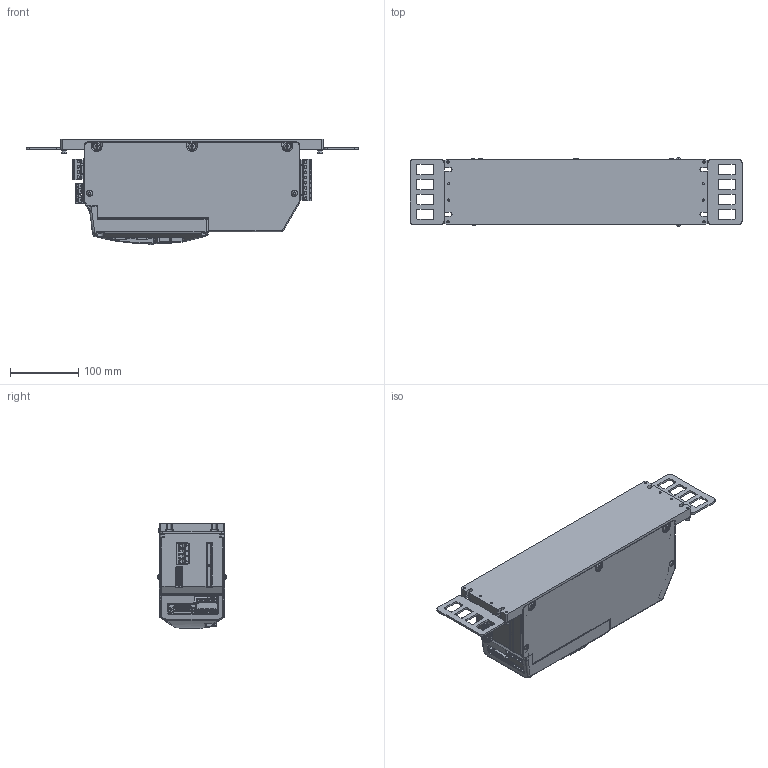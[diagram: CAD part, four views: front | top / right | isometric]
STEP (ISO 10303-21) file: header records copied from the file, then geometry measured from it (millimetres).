
FILE_DESCRIPTION((''),'2;1');
FILE_NAME('AXN15_COLD_PLATE','2015-11-10T',('hegenwang'),(''),'PRO/ENGINEER BY PARAMETRIC TECHNOLOGY CORPORATION, 2010430','PRO/ENGINEER BY PARAMETRIC TECHNOLOGY CORPORATION, 2010430','');
FILE_SCHEMA(('AUTOMOTIVE_DESIGN_CC2 { 1 2 10303 214 -1 1 5 2 }'));
Products named in the file (1): AXN15_COLD_PLATE
Bounding box: 488 x 100.4 x 155.03 mm (x, y, z)
Surface area: 486478.6 mm2 (no closed solid volume)
Topology: 0 solids, 594 shells, 4323 faces, 19234 edges, 15188 vertices
Faces by surface type: plane 2984, cylinder 915, sphere 131, cone 122, torus 119, bspline 52
Entity records: 223528 total; most frequent: CARTESIAN_POINT 54842, DIRECTION 27460, ORIENTED_EDGE 26768, EDGE_CURVE 19043, VERTEX_POINT 15165, VECTOR 13544, LINE 13544, AXIS2_PLACEMENT_3D 6958
